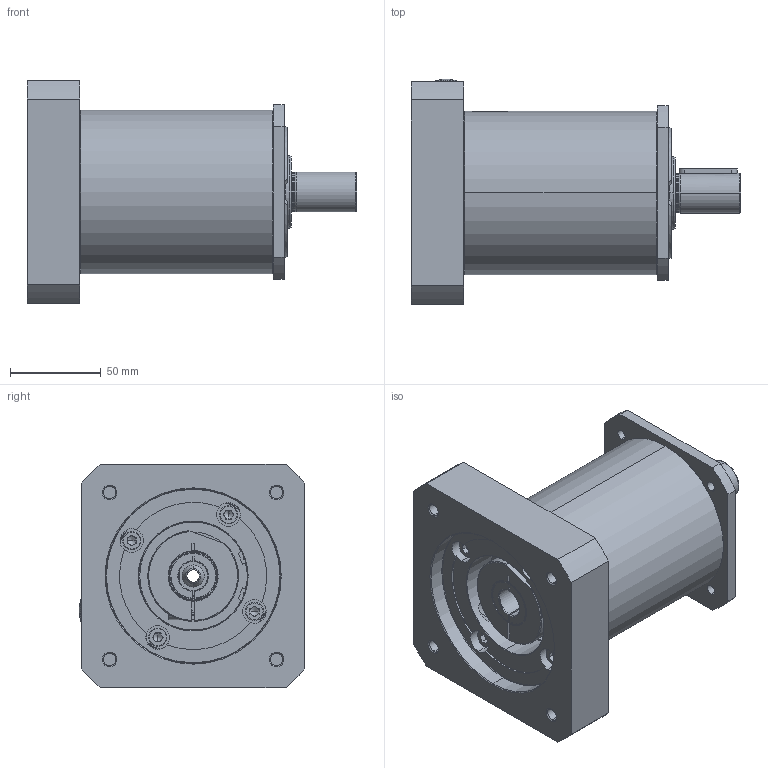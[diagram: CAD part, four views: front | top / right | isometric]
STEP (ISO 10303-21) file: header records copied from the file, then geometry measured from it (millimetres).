
FILE_DESCRIPTION (( 'STEP AP214' ), '1' );
FILE_NAME ('AL-034-RRR-FFF-MMM-S-LL-XXX-BXX-0000.STEP', '2019-10-23T15:38:45', ( '' ), ( '' ), 'SwSTEP 2.0', 'SolidWorks 2019', '' );
FILE_SCHEMA (( 'AUTOMOTIVE_DESIGN' ));
Length unit declared in the file: millimetre
Products named in the file (1): AL-034-RRR-FFF-MMM-S-LL-XXX-BXX-0000
Bounding box: 181.5 x 124.27 x 123 mm (x, y, z)
Surface area: 112876.1 mm2 (no closed solid volume)
Topology: 0 solids, 84 shells, 393 faces, 2256 edges, 1910 vertices
Faces by surface type: plane 182, cylinder 106, cone 63, torus 31, bspline 9, sphere 2
Entity records: 33296 total; most frequent: CARTESIAN_POINT 12985, ORIENTED_EDGE 2913, DIRECTION 2778, EDGE_CURVE 2240, VERTEX_POINT 1910, VECTOR 1118, LINE 1118, AXIS2_PLACEMENT_3D 830
